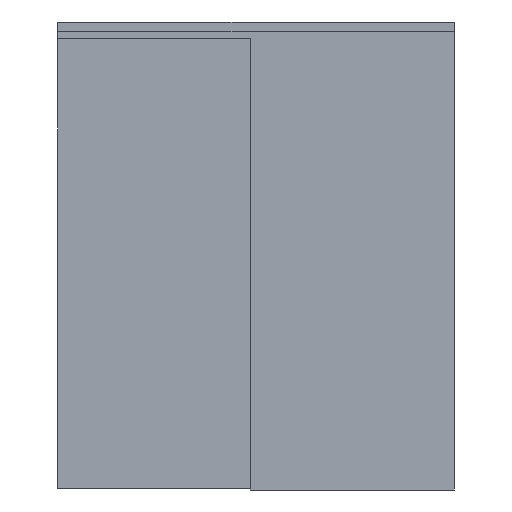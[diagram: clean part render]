
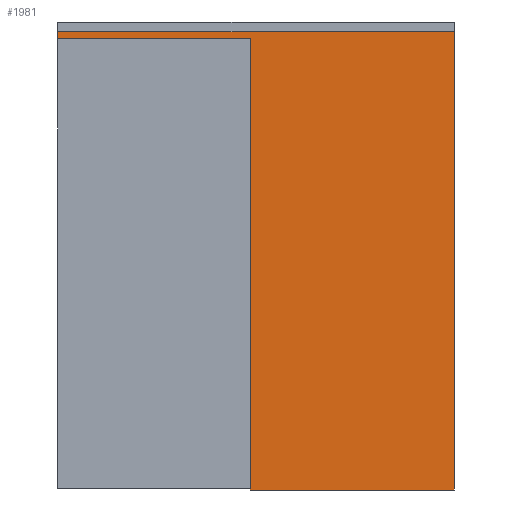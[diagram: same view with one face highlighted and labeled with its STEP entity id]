
A CAD part, front view. The second image highlights one B-rep face of the part: STEP entity #1981.
In plain terms, the highlighted planar face has unit normal (0, -1, 0).
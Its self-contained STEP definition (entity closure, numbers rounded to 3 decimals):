
#1981=ADVANCED_FACE('',(#4048),#4049,.F.);
#4048=FACE_OUTER_BOUND('',#6175,.T.);
#4049=PLANE('',#6176);
#6175=EDGE_LOOP('',(#11424,#11425,#11426,#11427,#11428,#11429));
#6176=AXIS2_PLACEMENT_3D('',#11430,#11431,#11432);
#11424=ORIENTED_EDGE('',*,*,#14629,.T.);
#11425=ORIENTED_EDGE('',*,*,#14619,.F.);
#11426=ORIENTED_EDGE('',*,*,#14623,.F.);
#11427=ORIENTED_EDGE('',*,*,#14627,.T.);
#11428=ORIENTED_EDGE('',*,*,#14630,.F.);
#11429=ORIENTED_EDGE('',*,*,#14631,.F.);
#11430=CARTESIAN_POINT('',(0.0,-44.,2333.0));
#11431=DIRECTION('',(0.0,1.0,-0.0));
#11432=DIRECTION('',(0.0,0.0,1.0));
#14619=EDGE_CURVE('',#17890,#17885,#17892,.T.);
#14623=EDGE_CURVE('',#17896,#17890,#17898,.T.);
#14627=EDGE_CURVE('',#17896,#17902,#17904,.T.);
#14629=EDGE_CURVE('',#17906,#17885,#17907,.T.);
#14630=EDGE_CURVE('',#17908,#17902,#17909,.T.);
#14631=EDGE_CURVE('',#17906,#17908,#17910,.T.);
#17885=VERTEX_POINT('',#22393);
#17890=VERTEX_POINT('',#22400);
#17892=LINE('',#22403,#22404);
#17896=VERTEX_POINT('',#22409);
#17898=LINE('',#22412,#22413);
#17902=VERTEX_POINT('',#22418);
#17904=LINE('',#22421,#22422);
#17906=VERTEX_POINT('',#22424);
#17907=LINE('',#22425,#22426);
#17908=VERTEX_POINT('',#22427);
#17909=LINE('',#22428,#22429);
#17910=LINE('',#22430,#22431);
#22393=CARTESIAN_POINT('',(995.0,-44.,2335.0));
#22400=CARTESIAN_POINT('',(995.0,-44.,0.0));
#22403=CARTESIAN_POINT('',(995.0,-44.,7.0));
#22404=VECTOR('',#25711,1.0);
#22409=CARTESIAN_POINT('',(2050.0,-44.,0.0));
#22412=CARTESIAN_POINT('',(1327.5,-44.,0.0));
#22413=VECTOR('',#25714,1.0);
#22418=CARTESIAN_POINT('',(2050.0,-44.,2368.0));
#22421=CARTESIAN_POINT('',(2050.0,-44.,7.0));
#22422=VECTOR('',#25717,1.0);
#22424=CARTESIAN_POINT('',(0.0,-44.,2335.0));
#22425=CARTESIAN_POINT('',(0.0,-44.,2335.0));
#22426=VECTOR('',#25718,1.0);
#22427=CARTESIAN_POINT('',(0.0,-44.,2368.0));
#22428=CARTESIAN_POINT('',(1270.0,-44.,2368.0));
#22429=VECTOR('',#25719,1.0);
#22430=CARTESIAN_POINT('',(0.0,-44.,2301.0));
#22431=VECTOR('',#25720,1.0);
#25711=DIRECTION('',(0.0,0.0,1.0));
#25714=DIRECTION('',(-1.0,0.0,0.0));
#25717=DIRECTION('',(0.0,0.0,1.0));
#25718=DIRECTION('',(1.0,0.0,0.0));
#25719=DIRECTION('',(1.0,0.0,0.0));
#25720=DIRECTION('',(0.0,0.0,1.0));
